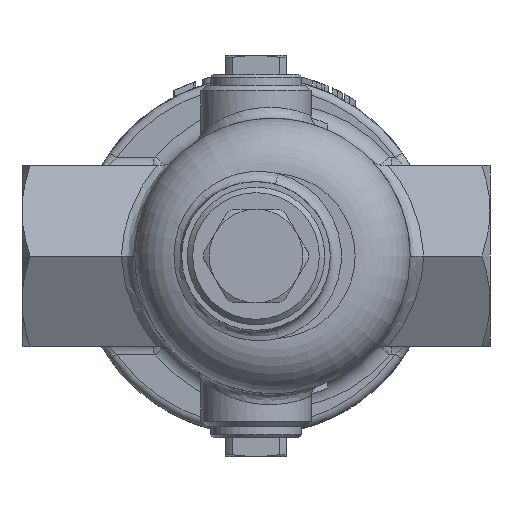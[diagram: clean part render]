
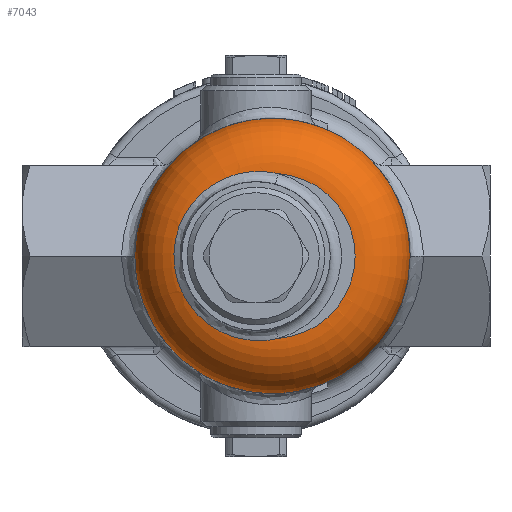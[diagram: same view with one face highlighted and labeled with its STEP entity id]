
A CAD part, front view. The second image highlights one B-rep face of the part: STEP entity #7043.
In plain terms, the highlighted toroidal (fillet/blend) face has major radius 15 mm and minor radius 10 mm.
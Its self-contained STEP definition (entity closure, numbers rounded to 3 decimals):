
#232=B_SPLINE_CURVE_WITH_KNOTS('',3,(#13629,#13630,#13631,#13632,#13633,
#13634,#13635,#13636,#13637,#13638,#13639),.UNSPECIFIED.,.F.,.F.,(4,1,1,
1,1,1,1,1,4),(0.,0.808,1.616,2.424,
3.232,4.039,4.847,5.251,5.655),
 .UNSPECIFIED.);
#928=TOROIDAL_SURFACE('',#7714,15.,10.);
#1401=FACE_OUTER_BOUND('',#1846,.T.);
#1846=EDGE_LOOP('',(#5865,#5866,#5867,#5868,#5869,#5870));
#2662=CIRCLE('',#7292,25.);
#2824=CIRCLE('',#7715,15.);
#2825=CIRCLE('',#7716,10.);
#2826=CIRCLE('',#7717,15.);
#3035=VERTEX_POINT('',#10129);
#3450=VERTEX_POINT('',#13564);
#3454=VERTEX_POINT('',#13571);
#3455=VERTEX_POINT('',#13810);
#3698=EDGE_CURVE('',#3035,#3035,#2662,.T.);
#4302=EDGE_CURVE('',#3450,#3454,#232,.T.);
#4304=EDGE_CURVE('',#3450,#3455,#2824,.T.);
#4305=EDGE_CURVE('',#3455,#3035,#2825,.T.);
#4306=EDGE_CURVE('',#3455,#3454,#2826,.T.);
#5865=ORIENTED_EDGE('',*,*,#4302,.F.);
#5866=ORIENTED_EDGE('',*,*,#4304,.T.);
#5867=ORIENTED_EDGE('',*,*,#4305,.T.);
#5868=ORIENTED_EDGE('',*,*,#3698,.T.);
#5869=ORIENTED_EDGE('',*,*,#4305,.F.);
#5870=ORIENTED_EDGE('',*,*,#4306,.T.);
#7043=ADVANCED_FACE('',(#1401),#928,.T.);
#7292=AXIS2_PLACEMENT_3D('',#10131,#8080,#8081);
#7714=AXIS2_PLACEMENT_3D('',#13809,#9159,#9160);
#7715=AXIS2_PLACEMENT_3D('',#13811,#9161,#9162);
#7716=AXIS2_PLACEMENT_3D('',#13812,#9163,#9164);
#7717=AXIS2_PLACEMENT_3D('',#13813,#9165,#9166);
#8080=DIRECTION('center_axis',(0.,-1.,0.));
#8081=DIRECTION('ref_axis',(-1.,0.,0.));
#9159=DIRECTION('center_axis',(0.,-1.,0.));
#9160=DIRECTION('ref_axis',(-1.,0.,0.));
#9161=DIRECTION('center_axis',(0.,1.,0.));
#9162=DIRECTION('ref_axis',(-1.,0.,0.));
#9163=DIRECTION('center_axis',(0.,0.,1.));
#9164=DIRECTION('ref_axis',(1.,0.,0.));
#9165=DIRECTION('center_axis',(0.,1.,0.));
#9166=DIRECTION('ref_axis',(-1.,0.,0.));
#10129=CARTESIAN_POINT('',(25.,10.,0.));
#10131=CARTESIAN_POINT('Origin',(0.,10.,0.));
#13564=CARTESIAN_POINT('',(1.042,0.,14.964));
#13571=CARTESIAN_POINT('',(1.042,0.,-14.964));
#13629=CARTESIAN_POINT('Ctrl Pts',(1.042,0.,14.964));
#13630=CARTESIAN_POINT('Ctrl Pts',(-1.564,0.,
15.58));
#13631=CARTESIAN_POINT('Ctrl Pts',(-7.076,0.061,
15.42));
#13632=CARTESIAN_POINT('Ctrl Pts',(-14.075,0.272,
11.18));
#13633=CARTESIAN_POINT('Ctrl Pts',(-18.079,0.441,
4.083));
#13634=CARTESIAN_POINT('Ctrl Pts',(-18.085,0.442,
-4.046));
#13635=CARTESIAN_POINT('Ctrl Pts',(-14.104,0.273,-11.159));
#13636=CARTESIAN_POINT('Ctrl Pts',(-8.265,0.097,
-14.699));
#13637=CARTESIAN_POINT('Ctrl Pts',(-2.969,0.015,
-15.545));
#13638=CARTESIAN_POINT('Ctrl Pts',(-0.261,0.,
-15.272));
#13639=CARTESIAN_POINT('Ctrl Pts',(1.042,0.,-14.964));
#13809=CARTESIAN_POINT('Origin',(0.,10.,0.));
#13810=CARTESIAN_POINT('',(15.,0.,0.));
#13811=CARTESIAN_POINT('Origin',(0.,0.,0.));
#13812=CARTESIAN_POINT('Origin',(15.,10.,0.));
#13813=CARTESIAN_POINT('Origin',(0.,0.,0.));
